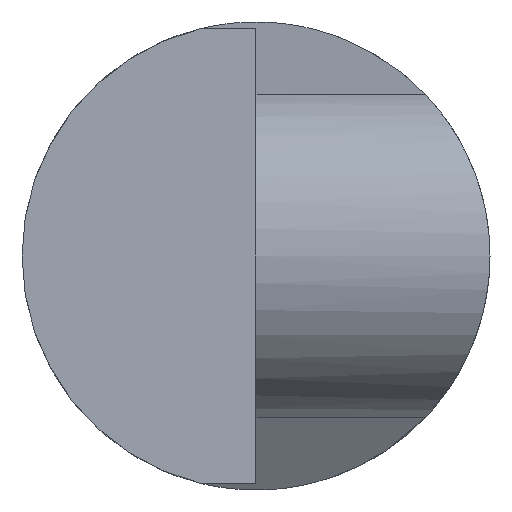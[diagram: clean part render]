
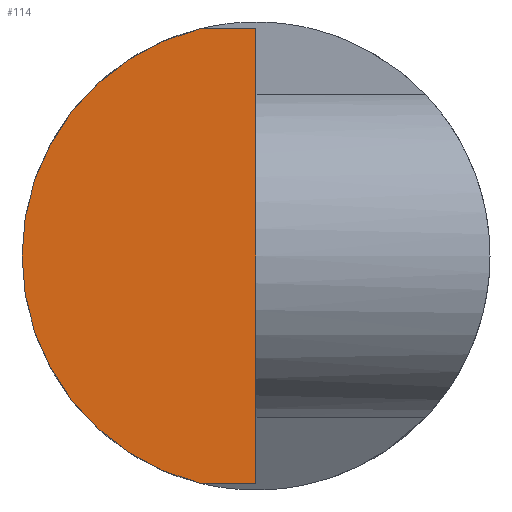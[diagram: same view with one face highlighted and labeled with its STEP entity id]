
A CAD part, left-side view. The second image highlights one B-rep face of the part: STEP entity #114.
In plain terms, the highlighted planar face has unit normal (-1, 0, 0).
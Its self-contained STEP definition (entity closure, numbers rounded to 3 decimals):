
#52=PLANE('',#1115);
#114=ADVANCED_FACE('',(#154),#52,.T.);
#154=FACE_OUTER_BOUND('',#197,.F.);
#197=EDGE_LOOP('',(#349,#350,#351,#352,#353));
#349=ORIENTED_EDGE('',*,*,#929,.F.);
#350=ORIENTED_EDGE('',*,*,#865,.T.);
#351=ORIENTED_EDGE('',*,*,#868,.T.);
#352=ORIENTED_EDGE('',*,*,#867,.T.);
#353=ORIENTED_EDGE('',*,*,#862,.T.);
#772=LINE('',#1385,#816);
#773=LINE('',#1388,#817);
#796=LINE('',#1732,#840);
#816=VECTOR('',#1152,5.103);
#817=VECTOR('',#1157,5.103);
#840=VECTOR('',#1212,40.947);
#862=EDGE_CURVE('',#1043,#1045,#772,.T.);
#865=EDGE_CURVE('',#1040,#1039,#773,.T.);
#867=EDGE_CURVE('',#1038,#1043,#976,.T.);
#868=EDGE_CURVE('',#1039,#1038,#977,.T.);
#929=EDGE_CURVE('',#1040,#1045,#796,.T.);
#976=CIRCLE('',#1078,21.1);
#977=CIRCLE('',#1079,21.1);
#1038=VERTEX_POINT('',#1372);
#1039=VERTEX_POINT('',#1373);
#1040=VERTEX_POINT('',#1374);
#1043=VERTEX_POINT('',#1377);
#1045=VERTEX_POINT('',#1379);
#1078=AXIS2_PLACEMENT_3D('',#1390,#1159,#1160);
#1079=AXIS2_PLACEMENT_3D('',#1391,#1161,#1162);
#1115=AXIS2_PLACEMENT_3D('',#1756,#1257,#1258);
#1152=DIRECTION('',(0.,-1.,0.));
#1157=DIRECTION('',(0.,1.,0.));
#1159=DIRECTION('',(1.,0.,0.));
#1160=DIRECTION('',(0.,1.,0.));
#1161=DIRECTION('',(1.,0.,0.));
#1162=DIRECTION('',(0.,0.242,-0.97));
#1212=DIRECTION('',(0.,0.,1.));
#1257=DIRECTION('',(-1.,0.,0.));
#1258=DIRECTION('',(0.,0.,1.));
#1372=CARTESIAN_POINT('',(1169.026,440.352,-420.626));
#1373=CARTESIAN_POINT('',(1169.026,424.355,-441.1));
#1374=CARTESIAN_POINT('',(1169.026,419.252,-441.1));
#1377=CARTESIAN_POINT('',(1169.026,424.355,-400.153));
#1379=CARTESIAN_POINT('',(1169.026,419.252,-400.152));
#1385=CARTESIAN_POINT('',(1169.026,424.355,-400.152));
#1388=CARTESIAN_POINT('',(1169.026,419.252,-441.1));
#1390=CARTESIAN_POINT('',(1169.026,419.252,-420.626));
#1391=CARTESIAN_POINT('',(1169.026,419.252,-420.626));
#1732=CARTESIAN_POINT('',(1169.026,419.252,-441.1));
#1756=CARTESIAN_POINT('',(1169.026,440.774,-442.148));
